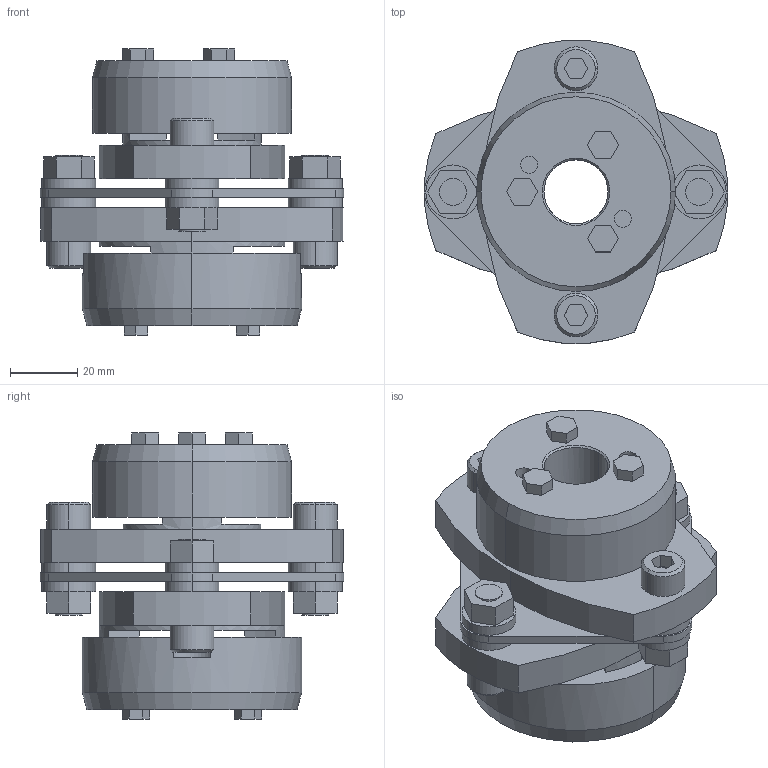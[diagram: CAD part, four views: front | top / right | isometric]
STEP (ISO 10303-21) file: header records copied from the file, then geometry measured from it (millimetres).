
FILE_DESCRIPTION((''),'2;1');
FILE_NAME('LCS-90T7-19×35.stp','2011-09-09T10:06:20',(''),(''),'AutoCAD STEP 2000i','AutoCAD 2000i',', , ');
FILE_SCHEMA(('CONFIG_CONTROL_DESIGN'));
Length unit declared in the file: millimetre
Products named in the file (11): LCS-90T7-19×35; 忣兜1; LC90T7-T035; LC90T7-T032; LC90T7-T030; LC90T7-T025; LC90T7-T019-1; LC90T7-T019; LC90-B019-1; LC90-B019; LCS90-ITA
Assembly tree (10 placements, depth 2):
  LCS-90T7-19×35
    忣兜1
    LC90T7-T035
    LC90T7-T032
    LC90T7-T030
    LC90T7-T025
    LC90T7-T019-1
    LC90T7-T019
    LC90-B019-1
    LC90-B019
    LCS90-ITA
Bounding box: 90 x 89.94 x 84.8 mm (x, y, z)
Volume: 200160.4 mm3; surface area: 52864.2 mm2
Topology: 1 solids, 1 shells, 244 faces, 598 edges, 390 vertices
Faces by surface type: plane 142, cylinder 82, cone 20
Entity records: 7469 total; most frequent: DIRECTION 1312, CARTESIAN_POINT 1243, ORIENTED_EDGE 1196, EDGE_CURVE 598, AXIS2_PLACEMENT_3D 459, VECTOR 394, LINE 394, VERTEX_POINT 390
